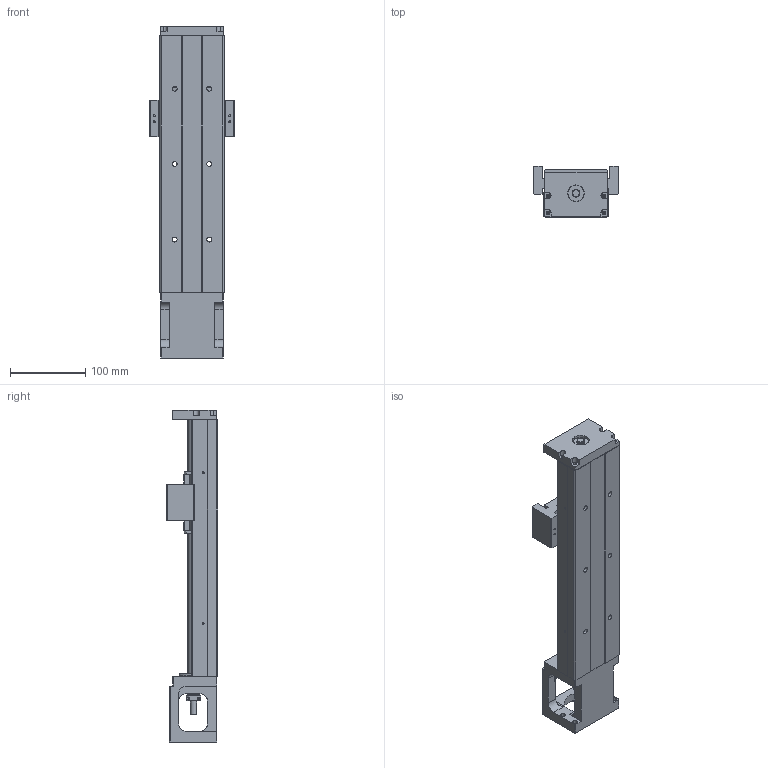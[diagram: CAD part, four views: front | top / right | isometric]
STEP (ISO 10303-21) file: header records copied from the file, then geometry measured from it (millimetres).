
FILE_DESCRIPTION(/* description */ (''),/* implementation_level */ '2;1');
FILE_NAME(/* name */ 'KP46S-3401.stp',/* time_stamp */ '2020-02-04T17:11:41+08:00',/* author */ (''),/* organization */ (''),/* preprocessor_version */ 'ST-DEVELOPER v16',/* originating_system */ 'SIEMENS PLM Software NX 10.0',/* authorisation */ '');
FILE_SCHEMA (('AP203_CONFIGURATION_CONTROLLED_3D_DESIGN_OF_MECHANICAL_PARTS_AND_ASSEMBLIES_MIM_LF { 1 0 10303 403 2 1 2}'));
Length unit declared in the file: millimetre
Products named in the file (1): 01547EBC50235slw
Bounding box: 112 x 68 x 440 mm (x, y, z)
Volume: 1084034.8 mm3; surface area: 233001.1 mm2
Topology: 6 solids, 17 shells, 629 faces, 1644 edges, 1092 vertices
Faces by surface type: plane 317, cylinder 220, cone 49, bspline 35, torus 8
Full cylindrical faces by diameter (mm): 2 x2, 2.11 x2, 2.15 x4, 2.42 x6, 2.5 x4, 3 x4, 3.2 x4, 3.3 x12, 3.4 x8, 4 x2, 4.2 x4, 4.5 x8, 5 x8, 6 x8, 6.35 x2, 6.6 x6, 6.7 x2, 8 x1, 8.7 x4, 9.6 x1, 10 x3, 11 x6, 12 x1, 14.95 x2, 15 x1, 16 x2, 22 x3, 27.5 x1, 44 x1, 50 x1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
Entity records: 27067 total; most frequent: CARTESIAN_POINT 12558, ORIENTED_EDGE 2852, DIRECTION 2842, EDGE_CURVE 1426, VERTEX_POINT 1030, AXIS2_PLACEMENT_3D 1023, EDGE_LOOP 880, LINE 796
